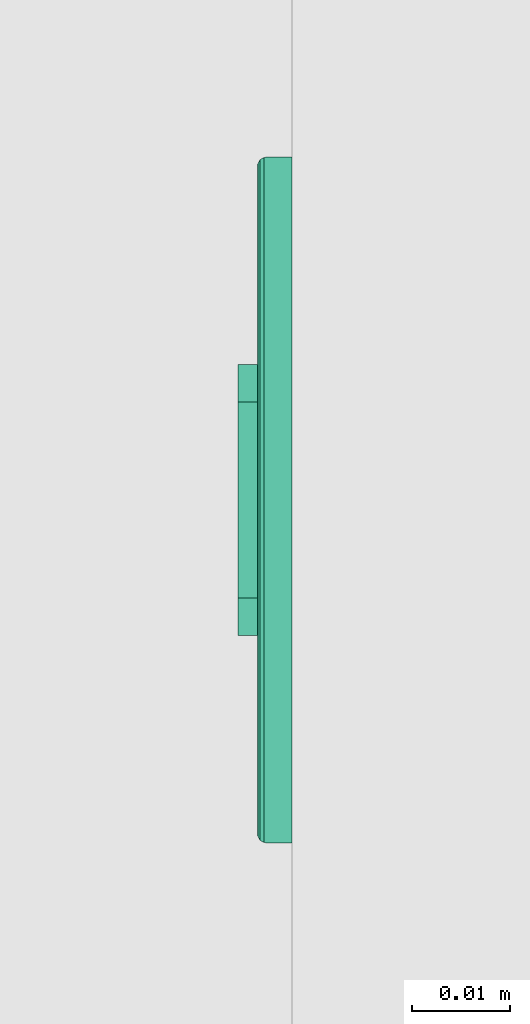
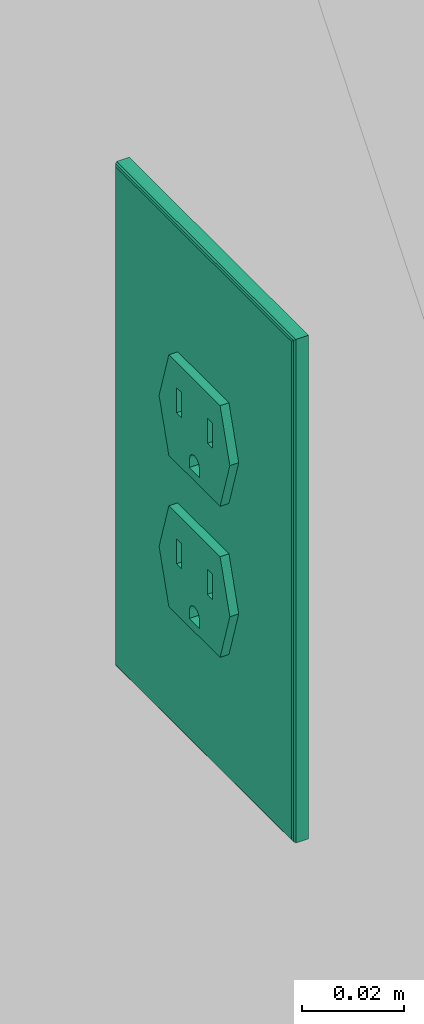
# One storey, part 13 of 48: 1 flow controller.
"""IFC2X3 building model written with IfcOpenShell, lengths in inches."""

from ifc_helpers import new_model, entity, si_unit, converted_unit, derived_unit, money_unit, direction, frame, origin_with_axes, place, context, subcontext, project, spatial, faceted_brep, source, transform, mapped, type_object, element, save


model = new_model("IFC2X3")

# Units and contexts
model_context = context("Model", 3, precision=0.00039370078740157, world=origin_with_axes(), true_north=direction((0.0, 1.0)))
plan_context = context("Plan", 3, precision=0.00039370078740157, world=origin_with_axes(), true_north=direction((0.0, 1.0)))
body_context = subcontext(model_context, "Body", "Model", "MODEL_VIEW")
ifc_project = project(units=[converted_unit("LENGTHUNIT", "INCH", entity("IfcPositiveLengthMeasure", 0.0254), si_unit("LENGTHUNIT", "METRE"), dimensions=[1, 0, 0, 0, 0, 0, 0]), converted_unit("AREAUNIT", "SQUARE_FOOT", entity("IfcPositiveLengthMeasure", 0.09290304), si_unit("AREAUNIT", "SQUARE_METRE"), dimensions=[2, 0, 0, 0, 0, 0, 0]), si_unit("PLANEANGLEUNIT", "RADIAN"), si_unit("SOLIDANGLEUNIT", "STERADIAN"), money_unit("USD"), converted_unit("TIMEUNIT", "Year", entity("IfcTimeMeasure", 31557600.0), si_unit("TIMEUNIT", "SECOND"), dimensions=[0, 0, 1, 0, 0, 0, 0]), si_unit("MASSUNIT", "GRAM", prefix="KILO"), si_unit("THERMODYNAMICTEMPERATUREUNIT", "DEGREE_CELSIUS"), si_unit("LUMINOUSINTENSITYUNIT", "LUMEN"), si_unit("ENERGYUNIT", "JOULE", prefix="MEGA"), derived_unit("SPECIFICHEATCAPACITYUNIT", [(si_unit("ENERGYUNIT", "JOULE"), 1), (si_unit("MASSUNIT", "GRAM", prefix="KILO"), -1), (si_unit("THERMODYNAMICTEMPERATUREUNIT", "KELVIN"), -1)])], contexts=[model_context, plan_context])

# Site, building, storey
site_placement = place(None, origin_with_axes())
site = spatial("IfcSite", under=ifc_project, at=site_placement, Name="Site", CompositionType="ELEMENT")
building_placement = place(site_placement, origin_with_axes())
building = spatial("IfcBuilding", under=site, at=building_placement, Name="Building", CompositionType="ELEMENT")
storey_placement = place(building_placement, origin_with_axes())
storey = spatial("IfcBuildingStorey", under=building, at=storey_placement, Name="First Floor", CompositionType="ELEMENT", Elevation=0.0)

# Flow controller
switching_device_type = type_object("IfcSwitchingDeviceType", Name="Outlet 1 US", PredefinedType="NOTDEFINED")
shared_shape = source(origin_with_axes(), body_context, "Body", "Brep", [
    faceted_brep([(0.39370078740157, -0.03444881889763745, -1.18110236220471), (0.5436477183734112, -0.03444881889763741, -0.7086614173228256), (0.5436477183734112, -0.2165354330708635, -0.7086614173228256), (0.39370078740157, -0.2165354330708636, -1.18110236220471), (-0.3937007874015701, -0.03444881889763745, -1.181102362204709), (-0.543647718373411, -0.03444881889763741, -0.7086614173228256), (-0.39370078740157, -0.03444881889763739, -0.2362204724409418), (0.3937007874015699, -0.03444881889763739, -0.2362204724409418), (-0.196850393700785, -0.03444881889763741, -0.7086614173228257), (-0.196850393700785, -0.0344488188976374, -0.4724409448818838), (-0.275590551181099, -0.0344488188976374, -0.4724409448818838), (-0.275590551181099, -0.03444881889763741, -0.7086614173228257), (0.196850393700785, -0.03444881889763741, -0.7086614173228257), (0.275590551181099, -0.03444881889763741, -0.7086614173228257), (0.275590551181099, -0.0344488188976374, -0.4724409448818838), (0.196850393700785, -0.0344488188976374, -0.4724409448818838), (-0.078740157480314, -0.03444881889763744, -1.102362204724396), (0.078740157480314, -0.03444881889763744, -1.102362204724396), (0.078740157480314, -0.03444881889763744, -1.023622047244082), (0.06819097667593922, -0.03444881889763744, -0.9842519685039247), (0.03937007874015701, -0.03444881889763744, -0.9554310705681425), (0.0, -0.03444881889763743, -0.9448818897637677), (-0.03937007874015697, -0.03444881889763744, -0.9554310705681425), (-0.06819097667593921, -0.03444881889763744, -0.9842519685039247), (-0.078740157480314, -0.03444881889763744, -1.023622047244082), (0.3937007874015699, -0.2165354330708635, -0.2362204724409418), (-0.39370078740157, -0.2165354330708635, -0.2362204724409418), (-0.543647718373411, -0.2165354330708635, -0.7086614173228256), (-0.3937007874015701, -0.2165354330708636, -1.181102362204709), (-0.196850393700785, -0.2165354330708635, -0.7086614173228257), (-0.275590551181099, -0.2165354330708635, -0.7086614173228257), (-0.275590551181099, -0.2165354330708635, -0.4724409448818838), (-0.196850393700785, -0.2165354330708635, -0.4724409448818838), (0.196850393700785, -0.2165354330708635, -0.7086614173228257), (0.196850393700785, -0.2165354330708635, -0.4724409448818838), (0.275590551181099, -0.2165354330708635, -0.4724409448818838), (0.275590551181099, -0.2165354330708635, -0.7086614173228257), (-0.078740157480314, -0.2165354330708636, -1.102362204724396), (-0.078740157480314, -0.2165354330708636, -1.023622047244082), (-0.06819097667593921, -0.2165354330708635, -0.9842519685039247), (-0.03937007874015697, -0.2165354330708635, -0.9554310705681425), (0.0, -0.2165354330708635, -0.9448818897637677), (0.03937007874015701, -0.2165354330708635, -0.9554310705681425), (0.06819097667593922, -0.2165354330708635, -0.9842519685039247), (0.078740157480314, -0.2165354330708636, -1.023622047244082), (0.078740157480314, -0.2165354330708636, -1.102362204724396)], [[[0, 1, 2, 3]], [[0, 4, 5, 6, 7, 1], [8, 9, 10, 11], [12, 13, 14, 15], [16, 17, 18, 19, 20, 21, 22, 23, 24]], [[1, 7, 25, 2]], [[3, 2, 25, 26, 27, 28], [29, 30, 31, 32], [33, 34, 35, 36], [37, 38, 39, 40, 41, 42, 43, 44, 45]], [[4, 0, 3, 28]], [[5, 4, 28, 27]], [[6, 5, 27, 26]], [[7, 6, 26, 25]], [[9, 8, 29, 32]], [[10, 9, 32, 31]], [[11, 10, 31, 30]], [[8, 11, 30, 29]], [[13, 12, 33, 36]], [[14, 13, 36, 35]], [[15, 14, 35, 34]], [[12, 15, 34, 33]], [[17, 16, 37, 45]], [[18, 17, 45, 44]], [[19, 18, 44, 43]], [[20, 19, 43, 42]], [[21, 20, 42, 41]], [[22, 21, 41, 40]], [[23, 22, 40, 39]], [[24, 23, 39, 38]], [[16, 24, 38, 37]]]),
    faceted_brep([(0.39370078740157, -0.03444881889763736, 0.2362204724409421), (0.5436477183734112, -0.03444881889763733, 0.7086614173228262), (0.5436477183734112, -0.2165354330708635, 0.7086614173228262), (0.39370078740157, -0.2165354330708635, 0.2362204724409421), (-0.3937007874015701, -0.03444881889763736, 0.2362204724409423), (-0.543647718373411, -0.03444881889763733, 0.7086614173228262), (-0.39370078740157, -0.0344488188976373, 1.18110236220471), (0.3937007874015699, -0.0344488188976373, 1.18110236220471), (-0.196850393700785, -0.03444881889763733, 0.7086614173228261), (-0.196850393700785, -0.03444881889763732, 0.944881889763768), (-0.275590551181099, -0.03444881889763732, 0.944881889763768), (-0.275590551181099, -0.03444881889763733, 0.7086614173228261), (0.196850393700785, -0.03444881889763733, 0.7086614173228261), (0.275590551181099, -0.03444881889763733, 0.7086614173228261), (0.275590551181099, -0.03444881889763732, 0.944881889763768), (0.196850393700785, -0.03444881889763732, 0.944881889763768), (-0.078740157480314, -0.03444881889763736, 0.3149606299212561), (0.078740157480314, -0.03444881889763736, 0.3149606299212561), (0.078740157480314, -0.03444881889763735, 0.3937007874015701), (0.06819097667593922, -0.03444881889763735, 0.4330708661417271), (0.03937007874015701, -0.03444881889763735, 0.4618917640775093), (0.0, -0.03444881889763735, 0.472440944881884), (-0.03937007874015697, -0.03444881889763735, 0.4618917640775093), (-0.06819097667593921, -0.03444881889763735, 0.4330708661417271), (-0.078740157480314, -0.03444881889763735, 0.3937007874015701), (0.3937007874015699, -0.2165354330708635, 1.18110236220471), (-0.39370078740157, -0.2165354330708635, 1.18110236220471), (-0.543647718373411, -0.2165354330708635, 0.7086614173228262), (-0.3937007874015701, -0.2165354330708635, 0.2362204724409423), (-0.196850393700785, -0.2165354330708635, 0.7086614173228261), (-0.275590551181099, -0.2165354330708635, 0.7086614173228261), (-0.275590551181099, -0.2165354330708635, 0.944881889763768), (-0.196850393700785, -0.2165354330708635, 0.944881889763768), (0.196850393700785, -0.2165354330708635, 0.7086614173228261), (0.196850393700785, -0.2165354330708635, 0.944881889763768), (0.275590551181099, -0.2165354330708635, 0.944881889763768), (0.275590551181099, -0.2165354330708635, 0.7086614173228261), (-0.078740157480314, -0.2165354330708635, 0.3149606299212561), (-0.078740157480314, -0.2165354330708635, 0.3937007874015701), (-0.06819097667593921, -0.2165354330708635, 0.4330708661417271), (-0.03937007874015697, -0.2165354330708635, 0.4618917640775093), (0.0, -0.2165354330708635, 0.472440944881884), (0.03937007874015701, -0.2165354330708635, 0.4618917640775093), (0.06819097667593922, -0.2165354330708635, 0.4330708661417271), (0.078740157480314, -0.2165354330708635, 0.3937007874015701), (0.078740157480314, -0.2165354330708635, 0.3149606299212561)], [[[0, 1, 2, 3]], [[0, 4, 5, 6, 7, 1], [8, 9, 10, 11], [12, 13, 14, 15], [16, 17, 18, 19, 20, 21, 22, 23, 24]], [[1, 7, 25, 2]], [[3, 2, 25, 26, 27, 28], [29, 30, 31, 32], [33, 34, 35, 36], [37, 38, 39, 40, 41, 42, 43, 44, 45]], [[4, 0, 3, 28]], [[5, 4, 28, 27]], [[6, 5, 27, 26]], [[7, 6, 26, 25]], [[9, 8, 29, 32]], [[10, 9, 32, 31]], [[11, 10, 31, 30]], [[8, 11, 30, 29]], [[13, 12, 33, 36]], [[14, 13, 36, 35]], [[15, 14, 35, 34]], [[12, 15, 34, 33]], [[17, 16, 37, 45]], [[18, 17, 45, 44]], [[19, 18, 44, 43]], [[20, 19, 43, 42]], [[21, 20, 42, 41]], [[22, 21, 41, 40]], [[23, 22, 40, 39]], [[24, 23, 39, 38]], [[16, 24, 38, 37]]]),
    faceted_brep([(-1.343503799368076, -0.1377952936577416, -2.327755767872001), (1.343503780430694, -0.1377952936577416, -2.327755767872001), (1.343503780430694, -0.1377952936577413, 2.327755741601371), (-1.343503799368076, -0.1377952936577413, 2.327755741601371), (0.39370078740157, -0.1377952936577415, -1.18110236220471), (-0.3937007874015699, -0.1377952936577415, -1.181102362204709), (-0.5436477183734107, -0.1377952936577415, -0.7086614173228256), (-0.39370078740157, -0.1377952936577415, -0.2362204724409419), (0.3937007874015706, -0.1377952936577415, -0.2362204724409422), (0.5436477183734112, -0.1377952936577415, -0.7086614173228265), (-0.39370078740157, -0.1377952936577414, 1.18110236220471), (0.3937007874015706, -0.1377952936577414, 1.18110236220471), (0.5436477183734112, -0.1377952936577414, 0.7086614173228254), (0.39370078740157, -0.1377952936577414, 0.236220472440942), (-0.3937007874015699, -0.1377952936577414, 0.2362204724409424), (-0.5436477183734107, -0.1377952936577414, 0.7086614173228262), (-1.352419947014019, -0.1366214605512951, -2.336671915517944), (1.352419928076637, -0.1366214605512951, -2.336671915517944), (1.352419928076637, -0.1366214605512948, 2.336671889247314), (-1.352419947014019, -0.1366214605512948, 2.336671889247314), (0.39370078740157, -0.03444881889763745, -1.18110236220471), (-0.3937007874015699, -0.03444881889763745, -1.181102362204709), (-0.5436477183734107, -0.03444881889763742, -0.7086614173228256), (-0.39370078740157, -0.03444881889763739, -0.2362204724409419), (0.3937007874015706, -0.03444881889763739, -0.2362204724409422), (0.5436477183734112, -0.03444881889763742, -0.7086614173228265), (-0.39370078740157, -0.0344488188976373, 1.18110236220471), (0.3937007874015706, -0.0344488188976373, 1.18110236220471), (0.5436477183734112, -0.03444881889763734, 0.7086614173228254), (0.39370078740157, -0.03444881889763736, 0.236220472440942), (-0.3937007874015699, -0.03444881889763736, 0.2362204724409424), (-0.5436477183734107, -0.03444881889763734, 0.7086614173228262), (-1.36786294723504, -0.1277054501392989, -2.352114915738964), (1.367862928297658, -0.1277054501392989, -2.352114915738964), (1.367862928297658, -0.1277054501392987, 2.352114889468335), (-1.36786294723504, -0.1277054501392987, 2.352114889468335), (-1.376778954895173, -0.1122624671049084, -2.361030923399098), (1.376778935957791, -0.1122624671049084, -2.361030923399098), (1.376778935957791, -0.1122624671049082, 2.361030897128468), (-1.376778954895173, -0.1122624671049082, 2.361030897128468), (-1.377952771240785, -0.1033464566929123, -2.362204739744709), (1.377952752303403, -0.1033464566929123, -2.362204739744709), (1.377952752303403, -0.103346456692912, 2.36220471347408), (-1.377952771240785, -0.103346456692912, 2.36220471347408), (-1.377952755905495, 0.0, -2.36220472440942), (1.377952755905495, 0.0, -2.36220472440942), (1.377952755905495, 0.0, 2.36220472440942), (-1.377952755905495, 0.0, 2.36220472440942)], [[[0, 1, 2, 3], [4, 5, 6, 7, 8, 9], [10, 11, 12, 13, 14, 15]], [[1, 0, 16, 17]], [[2, 1, 17, 18]], [[3, 2, 18, 19]], [[0, 3, 19, 16]], [[4, 20, 21, 5]], [[5, 21, 22, 6]], [[6, 22, 23, 7]], [[7, 23, 24, 8]], [[8, 24, 25, 9]], [[9, 25, 20, 4]], [[11, 10, 26, 27]], [[12, 11, 27, 28]], [[13, 12, 28, 29]], [[14, 13, 29, 30]], [[15, 14, 30, 31]], [[10, 15, 31, 26]], [[17, 16, 32, 33]], [[18, 17, 33, 34]], [[19, 18, 34, 35]], [[16, 19, 35, 32]], [[22, 21, 20, 25, 24, 23]], [[28, 27, 26, 31, 30, 29]], [[33, 32, 36, 37]], [[34, 33, 37, 38]], [[35, 34, 38, 39]], [[32, 35, 39, 36]], [[37, 36, 40, 41]], [[38, 37, 41, 42]], [[39, 38, 42, 43]], [[36, 39, 43, 40]], [[41, 40, 44, 45]], [[42, 41, 45, 46]], [[43, 42, 46, 47]], [[40, 43, 47, 44]], [[46, 45, 44, 47]]]),
])
flow_controller_placement = place(storey_placement, frame((101.4999999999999, 534.4999999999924, 13.99803149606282), z_axis=(0.0, 0.0, 1.0), x_axis=(0.0, -1.0, 0.0)))
element("IfcFlowController", 1, at=flow_controller_placement, inside=storey, type_object=switching_device_type, Name="FU - 029", context=body_context, shape_type="MappedRepresentation", body=[
    mapped(shared_shape, transform((0.0, 0.0, 0.0))),
])

save(model, "model.ifc")
